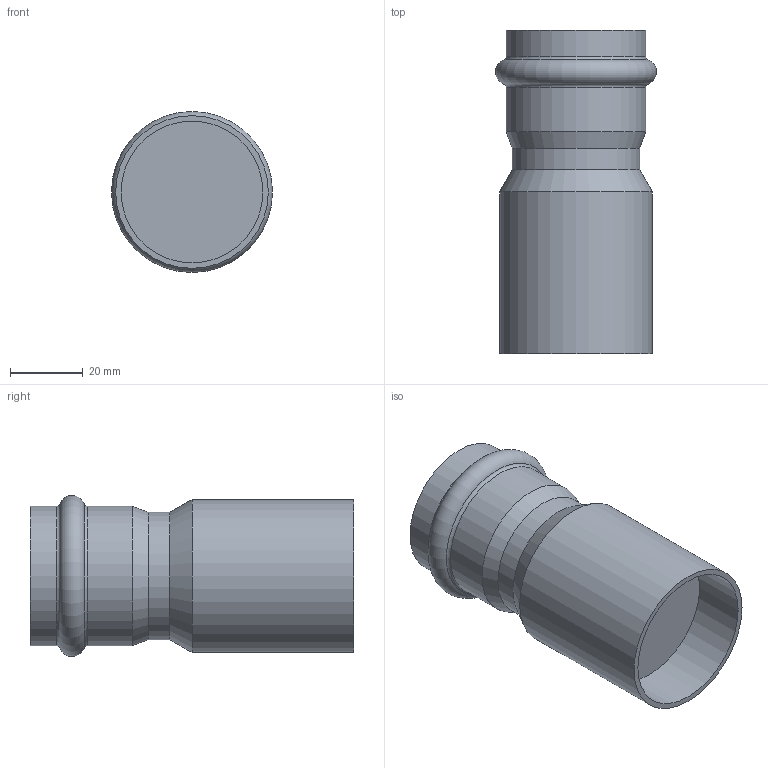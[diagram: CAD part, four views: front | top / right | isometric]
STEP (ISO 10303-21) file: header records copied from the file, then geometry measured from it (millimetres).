
FILE_DESCRIPTION(('STEP AP203'), '1');
FILE_NAME('VTi.905.I.004235', '', ('UNSPECIFIED'), ('UNSPECIFIED'), 'C3D Converter', 'C3D Toolkit', '');
FILE_SCHEMA(('CONFIG_CONTROL_DESIGN'));
Length unit declared in the file: millimetre
Bounding box: 44.29 x 89 x 44.29 mm (x, y, z)
Volume: 88478.9 mm3; surface area: 16906 mm2
Topology: 1 solids, 1 shells, 15 faces, 26 edges, 15 vertices
Faces by surface type: cylinder 6, plane 4, torus 3, cone 2
Full cylindrical faces by diameter (mm): 35 x1, 35.3 x1, 38.3 x2, 39 x1, 42 x1
Entity records: 344 total; most frequent: DIRECTION 62, CARTESIAN_POINT 46, AXIS2_PLACEMENT_3D 31, ORIENTED_EDGE 30, EDGE_LOOP 28, FACE_OUTER_BOUND 20, ADVANCED_FACE 15, EDGE_CURVE 15
